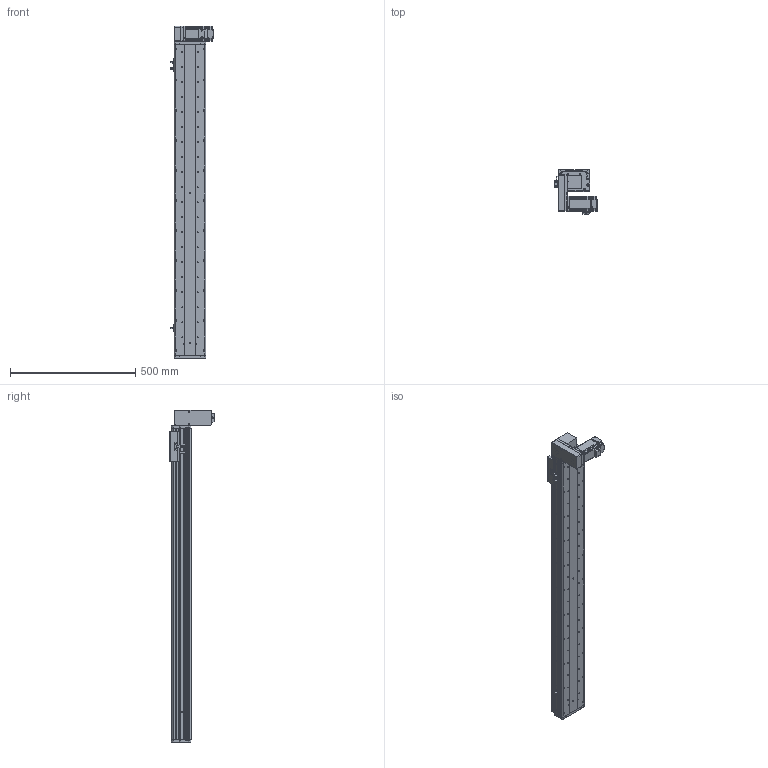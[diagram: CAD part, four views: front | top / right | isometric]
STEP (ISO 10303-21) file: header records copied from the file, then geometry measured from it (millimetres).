
FILE_DESCRIPTION (( 'STEP AP214' ), '1' );
FILE_NAME ('KSD125B-S1050-MRD-CM.STEP', '2017-10-21T06:26:39', ( '微软用户' ), ( '微软中国' ), 'SwSTEP 2.0', 'SolidWorks 2014', '' );
FILE_SCHEMA (( 'AUTOMOTIVE_DESIGN' ));
Length unit declared in the file: millimetre
Products named in the file (17): MHMD042G1CA_2_03; KSD125模组同步带-防撞垫2; 覜茼え68遵圉猾敕; U倰嫖萇假蚾璃; U倰嫖萇EEㄜSX672; KSD125模组同步带-防撞垫1; 100宽马达安装板同步带右; 前端板-125宽模组同步带; 125模组同步带-尾端板1; KSD125模组同步带-滑动座1; KSD125B-S1050-MRD-CM; 悵誘欶奻狟殏; HTPA30S3M150_A_H6_a佪裝蚚; HTPA30S3M150_A_H6_a萇儂蚚; 100宽马达安装板连板上下折丝杆同步带; KSD125模组1050行程同步带-防尘盖; 125模组1050行程同步带-底板
Assembly tree (20 placements, depth 2):
  KSD125B-S1050-MRD-CM
    KSD125模组同步带-滑动座1
    125模组同步带-尾端板1
    前端板-125宽模组同步带
    100宽马达安装板同步带右
    KSD125模组同步带-防撞垫1
    U倰嫖萇EEㄜSX672  x3
    U倰嫖萇假蚾璃  x3
    覜茼え68遵圉猾敕
    KSD125模组同步带-防撞垫2
    MHMD042G1CA_2_03
    125模组1050行程同步带-底板
    KSD125模组1050行程同步带-防尘盖
    100宽马达安装板连板上下折丝杆同步带
    HTPA30S3M150_A_H6_a萇儂蚚
    HTPA30S3M150_A_H6_a佪裝蚚
    悵誘欶奻狟殏
Bounding box: 168.7 x 179.5 x 1327 mm (x, y, z)
Volume: 4058223.9 mm3; surface area: 1363270.2 mm2
Topology: 19 solids, 22 shells, 2325 faces, 6739 edges, 4454 vertices
Faces by surface type: cylinder 1468, plane 730, cone 105, bspline 22
Entity records: 82901 total; most frequent: CARTESIAN_POINT 16353, DIRECTION 12884, ORIENTED_EDGE 11998, EDGE_CURVE 6077, AXIS2_PLACEMENT_3D 4989, VERTEX_POINT 4046, VECTOR 2906, LINE 2906
